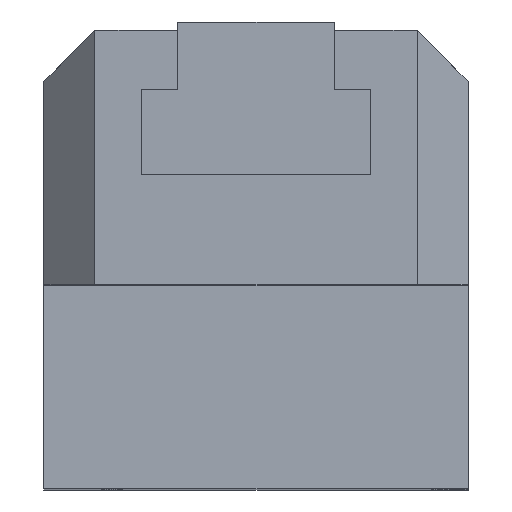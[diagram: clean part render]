
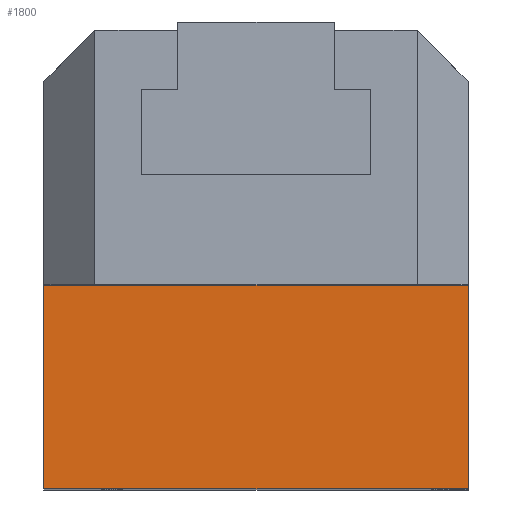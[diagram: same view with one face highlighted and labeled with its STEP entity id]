
A CAD part, top view. The second image highlights one B-rep face of the part: STEP entity #1800.
In plain terms, the highlighted planar face has unit normal (0, 0, 1).
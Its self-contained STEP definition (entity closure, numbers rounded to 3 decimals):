
#1262 = VERTEX_POINT ( 'NONE', #4545 ) ;
#1281 = EDGE_CURVE ( 'NONE', #1282, #1262, #4618, .T. ) ;
#1282 = VERTEX_POINT ( 'NONE', #4616 ) ;
#1351 = VERTEX_POINT ( 'NONE', #4608 ) ;
#1357 = EDGE_CURVE ( 'NONE', #1351, #1282, #4494, .T. ) ;
#1463 = EDGE_CURVE ( 'NONE', #1464, #1262, #4766, .T. ) ;
#1464 = VERTEX_POINT ( 'NONE', #4765 ) ;
#1478 = ORIENTED_EDGE ( 'NONE', *, *, #1281, .T. ) ;
#1480 = ORIENTED_EDGE ( 'NONE', *, *, #1463, .F. ) ;
#1705 = ORIENTED_EDGE ( 'NONE', *, *, #1708, .T. ) ;
#1708 = EDGE_CURVE ( 'NONE', #1464, #1351, #5029, .T. ) ;
#1710 = ORIENTED_EDGE ( 'NONE', *, *, #1357, .T. ) ;
#1800 = ADVANCED_FACE ( 'NONE', ( #5106 ), #5105, .F. ) ;
#1893 = EDGE_LOOP ( 'NONE', ( #1705, #1710, #1478, #1480 ) ) ;
#4491 = DIRECTION ( 'NONE',  ( 0., -1., 0. ) ) ;
#4492 = VECTOR ( 'NONE', #4491, 1000. ) ;
#4493 = CARTESIAN_POINT ( 'NONE',  ( -25., 107.668, 40.5 ) ) ;
#4494 = LINE ( 'NONE', #4493, #4492 ) ;
#4545 = CARTESIAN_POINT ( 'NONE',  ( 25., 0., 40.5 ) ) ;
#4608 = CARTESIAN_POINT ( 'NONE',  ( -25., 24., 40.5 ) ) ;
#4614 = DIRECTION ( 'NONE',  ( 1., 0., 0. ) ) ;
#4615 = VECTOR ( 'NONE', #4614, 1000. ) ;
#4616 = CARTESIAN_POINT ( 'NONE',  ( -25., 0., 40.5 ) ) ;
#4617 = CARTESIAN_POINT ( 'NONE',  ( 25., 0., 40.5 ) ) ;
#4618 = LINE ( 'NONE', #4617, #4615 ) ;
#4762 = DIRECTION ( 'NONE',  ( 0., -1., 0. ) ) ;
#4763 = VECTOR ( 'NONE', #4762, 1000. ) ;
#4764 = CARTESIAN_POINT ( 'NONE',  ( 25., 107.668, 40.5 ) ) ;
#4765 = CARTESIAN_POINT ( 'NONE',  ( 25., 24., 40.5 ) ) ;
#4766 = LINE ( 'NONE', #4764, #4763 ) ;
#4964 = VECTOR ( 'NONE', #4967, 1000. ) ;
#4967 = DIRECTION ( 'NONE',  ( -1., 0., 0. ) ) ;
#4968 = CARTESIAN_POINT ( 'NONE',  ( 25., 24., 40.5 ) ) ;
#4994 = DIRECTION ( 'NONE',  ( -1., 0., 0. ) ) ;
#4995 = DIRECTION ( 'NONE',  ( 0., 0., -1. ) ) ;
#4996 = CARTESIAN_POINT ( 'NONE',  ( 25., 107.668, 40.5 ) ) ;
#5029 = LINE ( 'NONE', #4968, #4964 ) ;
#5105 = PLANE ( 'NONE',  #5108 ) ;
#5106 = FACE_OUTER_BOUND ( 'NONE', #1893, .T. ) ;
#5108 = AXIS2_PLACEMENT_3D ( 'NONE', #4996, #4995, #4994 ) ;
